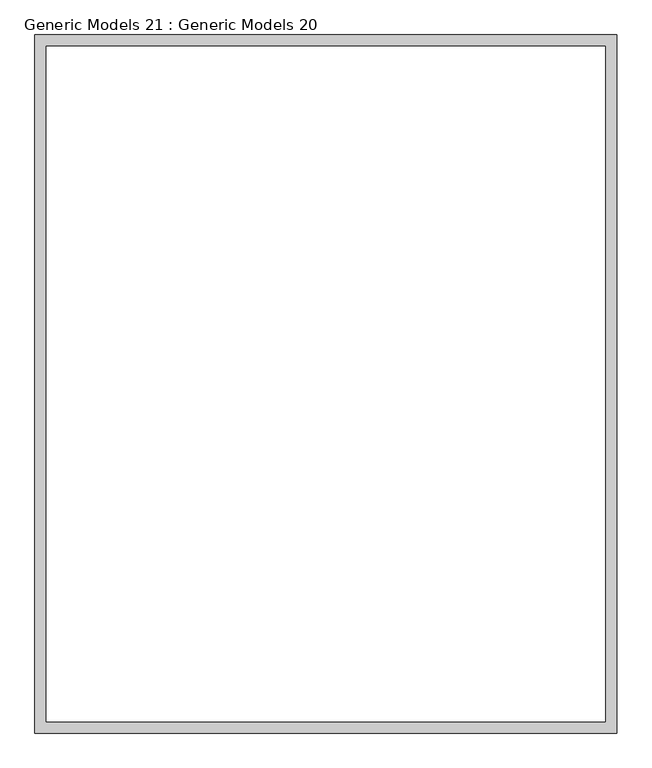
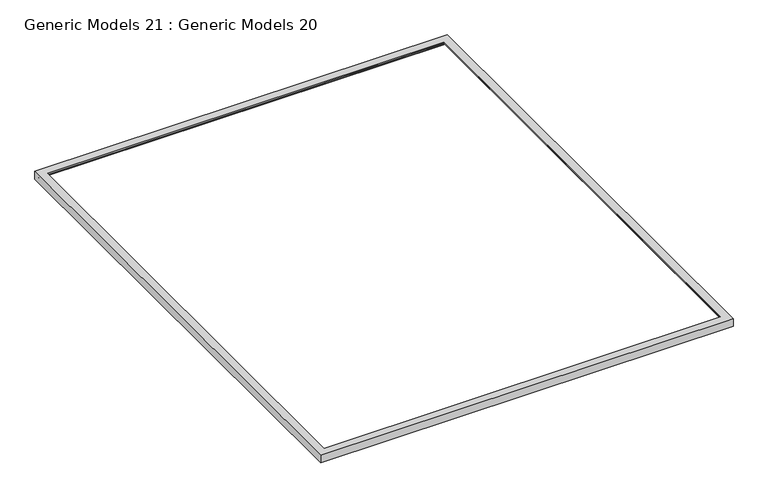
"""IFC4 building model written with IfcOpenShell, lengths in millimetres: proxy geometry, Generic Models 21 : Generic Models 20."""

from ifc_helpers import new_model, si_unit, frame, origin, place, context, project, spatial, polyline, ellipse_curve, source, transform, mapped, element, save
from ifc_brep_helpers import plane_surface, cylinder_surface, revolved_surface, advanced_brep


def generic_models_21_generic_models_20_657df800(model_context):
    return source(origin(), model_context, "Body", "AdvancedBrep", [
        advanced_brep(
        [(-1924.05, 15113.0, 6210.3), (-1924.05, 15113.0, 6299.2), (-1924.05, 9626.6, 6299.2), (-1924.05, 9626.6, 6210.3), (-1972.6710245, 15064.3789755, 6246.2210245), (-1936.75, 15100.3, 6210.3), (-1936.75, 9639.3, 6210.3), (-1972.6710245, 9675.2210245, 6246.2210245), (-2012.95, 15024.1, 6286.5), (-2012.95, 9715.5, 6286.5), (-2012.95, 15024.1, 6299.2), (-2012.95, 9715.5, 6299.2), (-6496.05, 9626.6, 6299.2), (-6496.05, 9626.6, 6210.3), (-6483.35, 9639.3, 6210.3), (-6447.4289755, 9675.2210245, 6246.2210245), (-6407.15, 9715.5, 6286.5), (-6407.15, 9715.5, 6299.2), (-6496.05, 15113.0, 6299.2), (-6496.05, 15113.0, 6210.3), (-6483.35, 15100.3, 6210.3), (-6447.4289755, 15064.3789755, 6246.2210245), (-6407.15, 15024.1, 6286.5), (-6407.15, 15024.1, 6299.2)],
        [
            (0, 1),
            (1, 2),
            (2, 3),
            (3, 0),
            (4, 5, ellipse_curve(frame((-2006.2858393, 15030.7641607, 6176.6851852), z_axis=(-0.7071067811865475, 0.7071067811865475, 0.0), x_axis=(-0.7071067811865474, -0.7071067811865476, 0.0)), 109.2262671, 77.2346342)),
            (5, 6),
            (6, 7, ellipse_curve(frame((-2006.2858393, 9708.8358393, 6176.6851852), z_axis=(-0.7071067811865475, -0.7071067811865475, 0.0), x_axis=(0.7071067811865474, -0.7071067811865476, 0.0)), 109.2262671, 77.2346342)),
            (7, 4),
            (8, 4, ellipse_curve(frame((-1934.9780488, 15102.0719512, 6324.1929757), z_axis=(0.7071067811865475, -0.7071067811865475, 0.0), x_axis=(0.7071067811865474, 0.7071067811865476, 0.0)), 122.4776354, 86.6047665)),
            (7, 9, ellipse_curve(frame((-1934.9780488, 9637.5280488, 6324.1929757), z_axis=(0.7071067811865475, 0.7071067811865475, 0.0), x_axis=(-0.7071067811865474, 0.7071067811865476, 0.0)), 122.4776354, 86.6047665)),
            (9, 8),
            (10, 8),
            (9, 11),
            (11, 10),
            (2, 12),
            (12, 13),
            (13, 3),
            (6, 14),
            (14, 15, ellipse_curve(frame((-6413.8141607, 9708.8358393, 6176.6851852), z_axis=(-0.7071067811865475, 0.7071067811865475, 0.0), x_axis=(-0.7071067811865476, -0.7071067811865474, 0.0)), 109.2262671, 77.2346342)),
            (15, 7),
            (15, 16, ellipse_curve(frame((-6485.1219512, 9637.5280488, 6324.1929757), z_axis=(0.7071067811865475, -0.7071067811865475, 0.0), x_axis=(0.7071067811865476, 0.7071067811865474, 0.0)), 122.4776354, 86.6047665)),
            (16, 9),
            (16, 17),
            (17, 11),
            (12, 18),
            (18, 19),
            (19, 13),
            (14, 20),
            (20, 21, ellipse_curve(frame((-6413.8141607, 15030.7641607, 6176.6851852), z_axis=(0.7071067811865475, 0.7071067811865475, 0.0), x_axis=(-0.7071067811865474, 0.7071067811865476, 0.0)), 109.2262671, 77.2346342)),
            (21, 15),
            (21, 22, ellipse_curve(frame((-6485.1219512, 15102.0719512, 6324.1929757), z_axis=(-0.7071067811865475, -0.7071067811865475, 0.0), x_axis=(0.7071067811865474, -0.7071067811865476, 0.0)), 122.4776354, 86.6047665)),
            (22, 16),
            (22, 23),
            (23, 17),
            (18, 1),
            (0, 19),
            (5, 20),
            (4, 21),
            (8, 22),
            (10, 23),
        ],
        [
            plane_surface(frame((-1924.05, 15113.0, 6299.2), z_axis=(1.0, 0.0, 0.0), x_axis=(0.0, -1.0, 0.0))),
            revolved_surface(polyline([(-1929.0512050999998, 9631.601205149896, 6176.6851852), (-1929.0512050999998, 15107.998794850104, 6176.6851852)]), (-2006.2858393, 15113.0, 6176.6851852), (0.0, -1.0, 0.0)),
            cylinder_surface(frame((-1934.9780488, 15113.0, 6324.1929757), z_axis=(0.0, 1.0, 0.0), x_axis=(1.0, 0.0, 0.0)), 86.6047665),
            plane_surface(frame((-2012.95, 15024.1, 6286.5), z_axis=(-1.0, 0.0, 0.0), x_axis=(0.0, -1.0, 0.0))),
            plane_surface(frame((-1924.05, 9626.6, 6299.2), z_axis=(0.0, -1.0, 0.0), x_axis=(-1.0, 0.0, 0.0))),
            revolved_surface(polyline([(-6491.048794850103, 9631.6012051, 6176.6851852), (-1929.0512051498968, 9631.6012051, 6176.6851852)]), (-1924.05, 9708.8358393, 6176.6851852), (-1.0, 0.0, 0.0)),
            cylinder_surface(frame((-1924.05, 9637.5280488, 6324.1929757), z_axis=(1.0, 0.0, 0.0), x_axis=(0.0, -1.0, 0.0)), 86.6047665),
            plane_surface(frame((-2012.95, 9715.5, 6286.5), z_axis=(0.0, 1.0, 0.0), x_axis=(-1.0, 0.0, 0.0))),
            plane_surface(frame((-6496.05, 9626.6, 6299.2), z_axis=(-1.0, 0.0, 0.0), x_axis=(0.0, 1.0, 0.0))),
            revolved_surface(polyline([(-6491.0487949, 15107.998794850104, 6176.6851852), (-6491.0487949, 9631.601205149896, 6176.6851852)]), (-6413.8141607, 9626.6, 6176.6851852), (0.0, 1.0, 0.0)),
            cylinder_surface(frame((-6485.1219512, 9626.6, 6324.1929757), z_axis=(0.0, -1.0, 0.0), x_axis=(-1.0, 0.0, 0.0)), 86.6047665),
            plane_surface(frame((-6407.15, 9715.5, 6286.5), z_axis=(1.0, 0.0, 0.0), x_axis=(0.0, 1.0, 0.0))),
            plane_surface(frame((-6496.05, 15113.0, 6299.2), z_axis=(0.0, 1.0, 0.0), x_axis=(1.0, 0.0, 0.0))),
            plane_surface(frame((-6496.05, 15113.0, 6210.3), z_axis=(0.0, 0.0, -1.0), x_axis=(1.0, 0.0, 0.0))),
            revolved_surface(polyline([(-1929.0512051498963, 15107.9987949, 6176.6851852), (-6491.048794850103, 15107.9987949, 6176.6851852)]), (-6496.05, 15030.7641607, 6176.6851852), (1.0, 0.0, 0.0)),
            cylinder_surface(frame((-6496.05, 15102.0719512, 6324.1929757), z_axis=(-1.0, 0.0, 0.0), x_axis=(0.0, 1.0, 0.0)), 86.6047665),
            plane_surface(frame((-6407.15, 15024.1, 6286.5), z_axis=(0.0, -1.0, 0.0), x_axis=(1.0, 0.0, 0.0))),
            plane_surface(frame((-6407.15, 15024.1, 6299.2), z_axis=(0.0, 0.0, 1.0), x_axis=(1.0, 0.0, 0.0))),
        ],
        [
            (0, [[1, 2, 3, 4]]),
            (1, [[5, 6, 7, 8]]),
            (2, [[9, -8, 10, 11]]),
            (3, [[12, -11, 13, 14]]),
            (4, [[-3, 15, 16, 17]]),
            (5, [[-7, 18, 19, 20]]),
            (6, [[-10, -20, 21, 22]]),
            (7, [[-13, -22, 23, 24]]),
            (8, [[-16, 25, 26, 27]]),
            (9, [[-19, 28, 29, 30]]),
            (10, [[-21, -30, 31, 32]]),
            (11, [[-23, -32, 33, 34]]),
            (12, [[-26, 35, -1, 36]]),
            (13, [[-17, -27, -36, -4], [37, -28, -18, -6]]),
            (14, [[-29, -37, -5, 38]]),
            (15, [[-31, -38, -9, 39]]),
            (16, [[-33, -39, -12, 40]]),
            (17, [[-35, -25, -15, -2], [-24, -34, -40, -14]]),
        ],
    ),
    ])


if __name__ == "__main__":
    model = new_model("IFC4")
    model_context = context("Model", 3, world=origin())
    ifc_project = project(units=[si_unit("LENGTHUNIT", "METRE", prefix="MILLI")], contexts=[model_context])
    site = spatial("IfcSite", under=ifc_project)
    building = spatial("IfcBuilding", under=site)
    placement = place(None, origin())
    generic_models_21_generic_models_20_shape = generic_models_21_generic_models_20_657df800(model_context)
    element("IfcBuildingElementProxy", 1, Name="Generic Models 21 : Generic Models 20", ObjectType="Generic Models 21 : Generic Models 20", at=placement, inside=building, context=model_context, shape_type="MappedRepresentation", body=[
        mapped(generic_models_21_generic_models_20_shape, transform((0.0, 0.0, 0.0), x_axis=(1.0, 0.0, 0.0), y_axis=(0.0, 1.0, 0.0), z_axis=(0.0, 0.0, 1.0))),
    ])
    save(model, "model.ifc")
